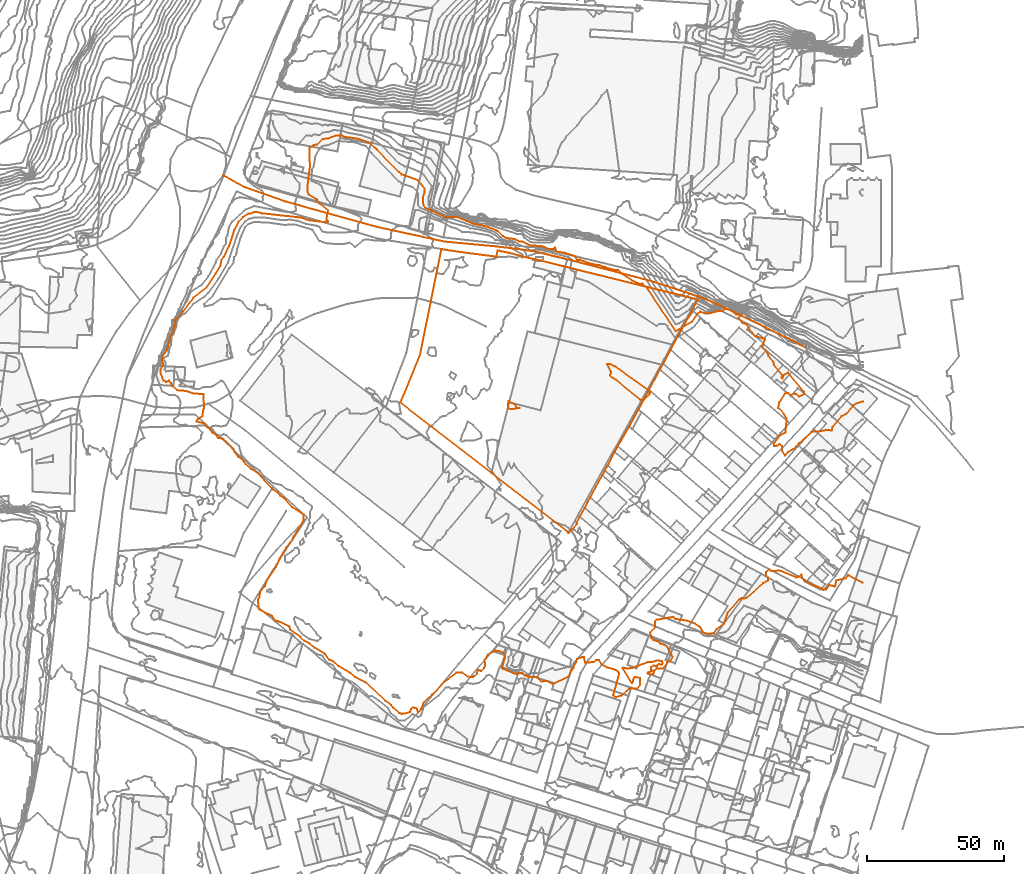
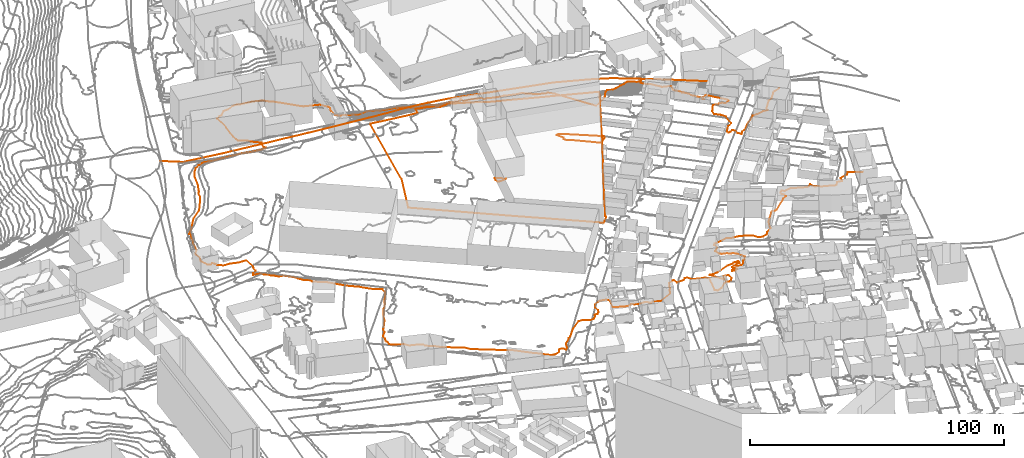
# Not in any storey, part 261 of 419: 5 proxies.
"""IFC2X3 model written with IfcOpenShell, lengths in metres."""

from ifc_helpers import new_model, entity, si_unit, frame, origin_with_axes, place, context, subcontext, project, element, save


model = new_model("IFC2X3")

# Units and contexts
model_context = context("Model", 3, precision=1e-05, world=origin_with_axes())
body_context = subcontext(model_context, "Body", "Model", "MODEL_VIEW")
ifc_project = project(units=[si_unit("AREAUNIT", "SQUARE_METRE"), si_unit("LENGTHUNIT", "METRE")], contexts=[model_context])

# Proxies
proxy_1_placement = place(None, frame((742.7920204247, 381.7976909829, 75.8), z_axis=(0.0, 0.0, 1.0), x_axis=(1.0, 0.0, 0.0)))
element("IfcBuildingElementProxy", 1, at=proxy_1_placement, Name="Route 217", ObjectType="NOTDEFINED", context=body_context, shape_type="GeometricCurveSet", body=[
    entity("IfcGeometricCurveSet", [entity("IfcPolyline", [entity("IfcCartesianPoint", [212.8, -62.9000000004, 2.1]), entity("IfcCartesianPoint", [211.0, -62.0, 2.2]), entity("IfcCartesianPoint", [194.8, -54.0, 3.9]), entity("IfcCartesianPoint", [178.5, -46.1000000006, 5.3]), entity("IfcCartesianPoint", [170.2000000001, -43.1000000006, 5.8]), entity("IfcCartesianPoint", [156.4, -38.6000000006, 6.4]), entity("IfcCartesianPoint", [126.2000000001, -30.8000000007, 6.6]), entity("IfcCartesianPoint", [114.0, -27.8000000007, 6.8]), entity("IfcCartesianPoint", [106.3, -26.7000000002, 7.0]), entity("IfcCartesianPoint", [99.1000000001, -25.9000000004, 7.2]), entity("IfcCartesianPoint", [80.9, -24.2000000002, 7.2]), entity("IfcCartesianPoint", [56.5, -18.9000000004, 5.3]), entity("IfcCartesianPoint", [22.6000000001, -9.5, 1.5]), entity("IfcCartesianPoint", [7.9, -4.3000000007, -0.6]), entity("IfcCartesianPoint", [0.0, 0.0, 0.0])])]),
])
proxy_2_placement = place(None, frame((807.5720204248, 298.7676909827, 81.0561277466), z_axis=(0.0, 0.0, 1.0), x_axis=(1.0, 0.0, 0.0)))
element("IfcBuildingElementProxy", 2, at=proxy_2_placement, Name="Cadastre 126", ObjectType="NOTDEFINED", context=body_context, shape_type="GeometricCurveSet", body=[
    entity("IfcGeometricCurveSet", [entity("IfcPolyline", [entity("IfcCartesianPoint", [62.36, -46.7400000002, 0.0134738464]), entity("IfcCartesianPoint", [61.49, -47.4900000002, 0.0741104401]), entity("IfcCartesianPoint", [61.3300000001, -47.3700000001, 0.063875]), entity("IfcCartesianPoint", [33.2200000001, -25.6600000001, -0.1066295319]), entity("IfcCartesianPoint", [0.0, 0.0, 0.0]), entity("IfcCartesianPoint", [7.1900000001, 17.6200000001, 0.423541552]), entity("IfcCartesianPoint", [14.9700000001, 56.0999999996, 1.1154054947]), entity("IfcCartesianPoint", [19.2000000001, 55.4000000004, 1.0564140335]), entity("IfcCartesianPoint", [35.0900000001, 53.3099999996, 0.878473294]), entity("IfcCartesianPoint", [35.4600000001, 55.6600000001, 1.2882338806]), entity("IfcCartesianPoint", [36.99, 55.2999999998, 1.2410689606]), entity("IfcCartesianPoint", [39.8200000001, 54.7000000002, 1.1999342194]), entity("IfcCartesianPoint", [45.29, 53.2199999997, 0.3375131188]), entity("IfcCartesianPoint", [48.14, 52.5800000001, 0.9619943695]), entity("IfcCartesianPoint", [49.3500000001, 52.3399999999, 0.9716436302]), entity("IfcCartesianPoint", [60.26, 49.6500000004, -0.4708803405]), entity("IfcCartesianPoint", [64.38, 48.6100000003, -1.2294933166]), entity("IfcCartesianPoint", [108.26, 37.7599999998, -5.1297275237]), entity("IfcCartesianPoint", [108.49, 37.6699999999, -5.1839281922]), entity("IfcCartesianPoint", [106.4700000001, 33.7199999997, -3.056732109]), entity("IfcCartesianPoint", [102.51, 26.46, -1.4481596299]), entity("IfcCartesianPoint", [101.41, 24.4500000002, -0.9247949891]), entity("IfcCartesianPoint", [98.6000000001, 19.2800000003, -0.6140472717]), entity("IfcCartesianPoint", [95.9400000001, 14.1900000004, -0.6990717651]), entity("IfcCartesianPoint", [94.7200000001, 12.1299999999, -0.609127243]), entity("IfcCartesianPoint", [90.76, 4.6299999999, -0.0583302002]), entity("IfcCartesianPoint", [86.88, -2.5499999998, -0.3194335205]), entity("IfcCartesianPoint", [83.51, -8.7400000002, -0.275772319]), entity("IfcCartesianPoint", [79.36, -15.8700000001, -0.2960259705]), entity("IfcCartesianPoint", [78.2200000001, -18.0499999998, -0.6456488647]), entity("IfcCartesianPoint", [75.66, -22.9100000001, -0.6443513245]), entity("IfcCartesianPoint", [74.6000000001, -24.7599999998, -0.6626278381]), entity("IfcCartesianPoint", [73.7100000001, -26.5, -0.6781189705]), entity("IfcCartesianPoint", [69.25, -34.5499999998, -0.6599944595]), entity("IfcCartesianPoint", [67.28, -38.3899999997, -0.4901965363]), entity("IfcCartesianPoint", [65.4700000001, -41.5800000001, -0.3348971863]), entity("IfcCartesianPoint", [64.42, -43.54, -0.2276295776]), entity("IfcCartesianPoint", [64.55, -44.1500000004, -0.2036297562]), entity("IfcCartesianPoint", [64.38, -44.2999999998, -0.1876294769]), entity("IfcCartesianPoint", [62.36, -46.7400000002, 0.0134738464])])]),
])
proxy_3_placement = place(None, frame((883.0920204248, 312.8977909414, 81.0), z_axis=(0.0, 0.0, 1.0), x_axis=(1.0, 0.0, 0.0)))
element("IfcBuildingElementProxy", 3, at=proxy_3_placement, Name="Contour 81.0 m", ObjectType="NOTDEFINED", context=body_context, shape_type="GeometricCurveSet", body=[
    entity("IfcGeometricCurveSet", [entity("IfcPolyline", [entity("IfcCartesianPoint", [13.2857220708, -13.0000999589, 0.0]), entity("IfcCartesianPoint", [13.0, -13.2858220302, 0.0]), entity("IfcCartesianPoint", [12.0, -13.0001199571, 0.0]), entity("IfcCartesianPoint", [3.0, -5.6666818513, 0.0]), entity("IfcCartesianPoint", [1.7999694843, -5.0000999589, 0.0]), entity("IfcCartesianPoint", [0.9999499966, -4.0000999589, 0.0]), entity("IfcCartesianPoint", [1.4999500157, -3.0000999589, 0.0]), entity("IfcCartesianPoint", [0.0, 0.0, 0.0]), entity("IfcCartesianPoint", [1.0, -6.66268e-05, 0.0]), entity("IfcCartesianPoint", [3.0, -1.0000799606, 0.0]), entity("IfcCartesianPoint", [15.6665818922, -10.0000999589, 0.0]), entity("IfcCartesianPoint", [15.5384705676, -11.0000999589, 0.0]), entity("IfcCartesianPoint", [13.2857220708, -13.0000999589, 0.0])])]),
])
proxy_4_placement = place(None, frame((846.8420108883, 297.8976909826, 81.0), z_axis=(0.0, 0.0, 1.0), x_axis=(1.0, 0.0, 0.0)))
element("IfcBuildingElementProxy", 4, at=proxy_4_placement, Name="Contour 81.0 m", ObjectType="NOTDEFINED", context=body_context, shape_type="GeometricCurveSet", body=[
    entity("IfcGeometricCurveSet", [entity("IfcPolyline", [entity("IfcCartesianPoint", [4.2500220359, -1.0, 0.0]), entity("IfcCartesianPoint", [1.2500095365, -1.5000499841, 0.0]), entity("IfcCartesianPoint", [0.2500095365, -1.2500476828, 0.0]), entity("IfcCartesianPoint", [0.0, 0.0, 0.0]), entity("IfcCartesianPoint", [0.2500095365, 1.4375089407, 0.0]), entity("IfcCartesianPoint", [2.7500220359, 0.0, 0.0]), entity("IfcCartesianPoint", [3.2500095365, -0.9999750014, 0.0]), entity("IfcCartesianPoint", [4.2500220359, -1.0, 0.0])])]),
])
proxy_5_placement = place(None, frame((719.9470940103, 309.8976909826, 79.0), z_axis=(0.0, 0.0, 1.0), x_axis=(1.0, 0.0, 0.0)))
element("IfcBuildingElementProxy", 5, at=proxy_5_placement, Name="Contour 79.0 m", ObjectType="NOTDEFINED", context=body_context, shape_type="GeometricCurveSet", body=[
    entity("IfcGeometricCurveSet", [entity("IfcPolyline", [entity("IfcCartesianPoint", [256.6449264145, -76.7778060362, 0.0]), entity("IfcCartesianPoint", [256.1449264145, -76.7778060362, 0.0]), entity("IfcCartesianPoint", [251.1449264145, -74.1000228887, 0.0]), entity("IfcCartesianPoint", [250.1449264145, -75.2307647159, 0.0]), entity("IfcCartesianPoint", [246.7812837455, -76.0, 0.0]), entity("IfcCartesianPoint", [246.4176410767, -78.0, 0.0]), entity("IfcCartesianPoint", [246.1449264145, -78.1764653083, 0.0]), entity("IfcCartesianPoint", [244.1449264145, -77.7142960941, 0.0]), entity("IfcCartesianPoint", [243.1449264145, -79.25, 0.0]), entity("IfcCartesianPoint", [242.1449264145, -79.2500095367, 0.0]), entity("IfcCartesianPoint", [237.1449264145, -77.2666700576, 0.0]), entity("IfcCartesianPoint", [236.1449264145, -76.4138012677, 0.0]), entity("IfcCartesianPoint", [235.1449264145, -76.2105284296, 0.0]), entity("IfcCartesianPoint", [234.3324234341, -75.0, 0.0]), entity("IfcCartesianPoint", [234.1449264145, -73.8260855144, 0.0]), entity("IfcCartesianPoint", [233.1449264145, -74.6470693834, 0.0]), entity("IfcCartesianPoint", [232.1449264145, -74.8750178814, 0.0]), entity("IfcCartesianPoint", [226.1449264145, -72.3636426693, 0.0]), entity("IfcCartesianPoint", [223.1449264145, -72.6665818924, 0.0]), entity("IfcCartesianPoint", [222.1449264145, -72.0000500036, 0.0]), entity("IfcCartesianPoint", [221.1449764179, -73.0, 0.0]), entity("IfcCartesianPoint", [221.144959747, -74.0, 0.0]), entity("IfcCartesianPoint", [221.9782385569, -75.0, 0.0]), entity("IfcCartesianPoint", [221.8948787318, -76.0, 0.0]), entity("IfcCartesianPoint", [220.1449264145, -77.0000090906, 0.0]), entity("IfcCartesianPoint", [214.1449264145, -82.25, 0.0]), entity("IfcCartesianPoint", [213.1449264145, -82.6666807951, 0.0]), entity("IfcCartesianPoint", [212.1449264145, -82.439021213, 0.0]), entity("IfcCartesianPoint", [211.2249129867, -83.0, 0.0]), entity("IfcCartesianPoint", [207.1449264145, -87.7646979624, 0.0]), entity("IfcCartesianPoint", [205.6287942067, -92.0, 0.0]), entity("IfcCartesianPoint", [203.1449264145, -93.7346983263, 0.0]), entity("IfcCartesianPoint", [202.1449264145, -95.2136755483, 0.0]), entity("IfcCartesianPoint", [200.1449264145, -95.5327101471, 0.0]), entity("IfcCartesianPoint", [199.1449264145, -95.4137946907, 0.0]), entity("IfcCartesianPoint", [198.2037473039, -95.0, 0.0]), entity("IfcCartesianPoint", [197.1449264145, -93.0487727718, 0.0]), entity("IfcCartesianPoint", [195.1449264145, -91.7999961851, 0.0]), entity("IfcCartesianPoint", [192.1449264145, -90.676472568, 0.0]), entity("IfcCartesianPoint", [188.1449264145, -90.0645058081, 0.0]), entity("IfcCartesianPoint", [187.1449264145, -89.3200073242, 0.0]), entity("IfcCartesianPoint", [181.1449264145, -90.3749761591, 0.0]), entity("IfcCartesianPoint", [180.6449364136, -91.0, 0.0]), entity("IfcCartesianPoint", [180.7004913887, -93.0, 0.0]), entity("IfcCartesianPoint", [178.8115930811, -95.0, 0.0]), entity("IfcCartesianPoint", [179.4390519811, -97.0, 0.0]), entity("IfcCartesianPoint", [180.1449264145, -97.857166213, 0.0]), entity("IfcCartesianPoint", [182.1449264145, -98.3749761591, 0.0]), entity("IfcCartesianPoint", [182.502092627, -99.0, 0.0]), entity("IfcCartesianPoint", [184.1449264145, -99.5789431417, 0.0]), entity("IfcCartesianPoint", [185.1449264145, -100.3333502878, 0.0]), entity("IfcCartesianPoint", [187.0759708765, -104.0, 0.0]), entity("IfcCartesianPoint", [186.1449264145, -105.3599853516, 0.0]), entity("IfcCartesianPoint", [185.0615771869, -106.0, 0.0]), entity("IfcCartesianPoint", [184.1449264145, -107.5999847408, 0.0]), entity("IfcCartesianPoint", [183.1449264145, -108.2307647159, 0.0]), entity("IfcCartesianPoint", [181.1449264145, -108.1666878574, 0.0]), entity("IfcCartesianPoint", [180.3116142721, -109.0, 0.0]), entity("IfcCartesianPoint", [180.1449355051, -110.0, 0.0]), entity("IfcCartesianPoint", [179.1449264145, -110.357166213, 0.0]), entity("IfcCartesianPoint", [177.8592588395, -110.0, 0.0]), entity("IfcCartesianPoint", [178.1449264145, -109.60003052, 0.0]), entity("IfcCartesianPoint", [179.6448764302, -109.0, 0.0]), entity("IfcCartesianPoint", [179.1449264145, -108.5000499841, 0.0]), entity("IfcCartesianPoint", [179.1449264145, -107.6665818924, 0.0]), entity("IfcCartesianPoint", [180.1449264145, -106.999966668, 0.0]), entity("IfcCartesianPoint", [181.1449264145, -107.4999500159, 0.0]), entity("IfcCartesianPoint", [181.3949740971, -107.0, 0.0]), entity("IfcCartesianPoint", [182.1449264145, -106.5714441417, 0.0]), entity("IfcCartesianPoint", [183.1449264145, -106.7999694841, 0.0]), entity("IfcCartesianPoint", [183.4115964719, -106.0, 0.0]), entity("IfcCartesianPoint", [183.1449264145, -105.4285558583, 0.0]), entity("IfcCartesianPoint", [181.1449264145, -105.2500476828, 0.0]), entity("IfcCartesianPoint", [180.1449264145, -105.7000076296, 0.0]), entity("IfcCartesianPoint", [178.1449264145, -105.80768215, 0.0]), entity("IfcCartesianPoint", [172.1449264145, -108.0000041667, 0.0]), entity("IfcCartesianPoint", [170.1449264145, -108.1999898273, 0.0]), entity("IfcCartesianPoint", [169.1449264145, -107.8571480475, 0.0]), entity("IfcCartesianPoint", [168.8115930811, -108.0, 0.0]), entity("IfcCartesianPoint", [172.1449264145, -113.4444350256, 0.0]), entity("IfcCartesianPoint", [172.6449139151, -113.0, 0.0]), entity("IfcCartesianPoint", [172.6949378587, -112.0, 0.0]), entity("IfcCartesianPoint", [173.1449264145, -111.25, 0.0]), entity("IfcCartesianPoint", [175.1449264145, -111.6667090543, 0.0]), entity("IfcCartesianPoint", [175.2087534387, -114.0, 0.0]), entity("IfcCartesianPoint", [174.1449264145, -115.4444350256, 0.0]), entity("IfcCartesianPoint", [173.1449264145, -115.5555649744, 0.0]), entity("IfcCartesianPoint", [172.1449264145, -115.2500476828, 0.0]), entity("IfcCartesianPoint", [171.1449264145, -115.5833174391, 0.0]), entity("IfcCartesianPoint", [168.3830285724, -118.0, 0.0]), entity("IfcCartesianPoint", [167.1449264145, -118.434784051, 0.0]), entity("IfcCartesianPoint", [166.1449264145, -118.6250238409, 0.0]), entity("IfcCartesianPoint", [165.3116142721, -118.0, 0.0]), entity("IfcCartesianPoint", [167.5448958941, -110.0, 0.0]), entity("IfcCartesianPoint", [167.1449264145, -109.3334181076, 0.0]), entity("IfcCartesianPoint", [166.1449264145, -108.6665818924, 0.0]), entity("IfcCartesianPoint", [163.1449264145, -107.7499523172, 0.0]), entity("IfcCartesianPoint", [161.1449264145, -106.7499523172, 0.0]), entity("IfcCartesianPoint", [160.1449264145, -105.0000166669, 0.0]), entity("IfcCartesianPoint", [159.1449264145, -105.0000199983, 0.0]), entity("IfcCartesianPoint", [158.1449264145, -105.8333121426, 0.0]), entity("IfcCartesianPoint", [155.1449264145, -106.000033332, 0.0]), entity("IfcCartesianPoint", [154.6448764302, -104.0, 0.0]), entity("IfcCartesianPoint", [153.8948787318, -104.0, 0.0]), entity("IfcCartesianPoint", [152.1449264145, -104.7272853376, 0.0]), entity("IfcCartesianPoint", [151.716354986, -106.0, 0.0]), entity("IfcCartesianPoint", [150.9853507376, -107.0, 0.0]), entity("IfcCartesianPoint", [150.8486238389, -108.0, 0.0]), entity("IfcCartesianPoint", [149.9526085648, -109.0, 0.0]), entity("IfcCartesianPoint", [149.1449264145, -111.0000047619, 0.0]), entity("IfcCartesianPoint", [143.1449264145, -113.8636426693, 0.0]), entity("IfcCartesianPoint", [141.1449264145, -112.75, 0.0]), entity("IfcCartesianPoint", [140.1449264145, -112.6896606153, 0.0]), entity("IfcCartesianPoint", [139.1449264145, -113.0000020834, 0.0]), entity("IfcCartesianPoint", [138.319924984, -112.0, 0.0]), entity("IfcCartesianPoint", [137.1449264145, -111.3428555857, 0.0]), entity("IfcCartesianPoint", [134.1449264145, -111.1290351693, 0.0]), entity("IfcCartesianPoint", [133.1449264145, -110.6736857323, 0.0]), entity("IfcCartesianPoint", [132.1449264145, -109.7200012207, 0.0]), entity("IfcCartesianPoint", [130.1449264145, -110.1538434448, 0.0]), entity("IfcCartesianPoint", [129.1449264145, -109.9647072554, 0.0]), entity("IfcCartesianPoint", [125.1449264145, -108.3058854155, 0.0]), entity("IfcCartesianPoint", [124.6721978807, -108.0, 0.0]), entity("IfcCartesianPoint", [125.8949224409, -104.0, 0.0]), entity("IfcCartesianPoint", [125.6782665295, -103.0, 0.0]), entity("IfcCartesianPoint", [125.1449264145, -102.4074032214, 0.0]), entity("IfcCartesianPoint", [124.1449264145, -101.9629556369, 0.0]), entity("IfcCartesianPoint", [122.1449264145, -101.6250119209, 0.0]), entity("IfcCartesianPoint", [119.5734822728, -103.0, 0.0]), entity("IfcCartesianPoint", [118.3830285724, -105.0, 0.0]), entity("IfcCartesianPoint", [118.6264037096, -107.0, 0.0]), entity("IfcCartesianPoint", [118.2189889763, -108.0, 0.0]), entity("IfcCartesianPoint", [117.1449264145, -109.0312567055, 0.0]), entity("IfcCartesianPoint", [116.1449264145, -108.8000305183, 0.0]), entity("IfcCartesianPoint", [115.8116354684, -109.0, 0.0]), entity("IfcCartesianPoint", [115.5600240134, -110.0, 0.0]), entity("IfcCartesianPoint", [114.5735040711, -111.0, 0.0]), entity("IfcCartesianPoint", [114.1449264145, -111.263160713, 0.0]), entity("IfcCartesianPoint", [112.1449264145, -111.1739164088, 0.0]), entity("IfcCartesianPoint", [110.1449264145, -109.6923031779, 0.0]), entity("IfcCartesianPoint", [108.1449264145, -109.6857111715, 0.0]), entity("IfcCartesianPoint", [103.7318768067, -113.0, 0.0]), entity("IfcCartesianPoint", [100.1449285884, -117.0, 0.0]), entity("IfcCartesianPoint", [99.1449264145, -117.6444399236, 0.0]), entity("IfcCartesianPoint", [96.1449264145, -120.5873013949, 0.0]), entity("IfcCartesianPoint", [95.1449264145, -123.032252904, 0.0]), entity("IfcCartesianPoint", [94.1449264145, -124.1764653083, 0.0]), entity("IfcCartesianPoint", [93.644921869, -123.0, 0.0]), entity("IfcCartesianPoint", [93.1449264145, -122.5769242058, 0.0]), entity("IfcCartesianPoint", [92.1449264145, -122.3809558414, 0.0]), entity("IfcCartesianPoint", [91.5402707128, -123.0, 0.0]), entity("IfcCartesianPoint", [91.1449264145, -124.0246872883, 0.0]), entity("IfcCartesianPoint", [89.1449264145, -124.6829304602, 0.0]), entity("IfcCartesianPoint", [88.1449264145, -124.714288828, 0.0]), entity("IfcCartesianPoint", [87.1449264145, -124.3499971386, 0.0]), entity("IfcCartesianPoint", [85.1449264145, -122.6249910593, 0.0]), entity("IfcCartesianPoint", [84.1449264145, -121.4230757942, 0.0]), entity("IfcCartesianPoint", [82.2318850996, -120.0, 0.0]), entity("IfcCartesianPoint", [75.1449264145, -113.3611028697, 0.0]), entity("IfcCartesianPoint", [71.1449264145, -111.2571335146, 0.0]), entity("IfcCartesianPoint", [69.1449264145, -109.6052642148, 0.0]), entity("IfcCartesianPoint", [65.1449264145, -107.3095186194, 0.0]), entity("IfcCartesianPoint", [63.1449264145, -105.6274477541, 0.0]), entity("IfcCartesianPoint", [61.7375231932, -105.0, 0.0]), entity("IfcCartesianPoint", [60.1449264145, -102.8163332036, 0.0]), entity("IfcCartesianPoint", [56.1449264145, -100.4642779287, 0.0]), entity("IfcCartesianPoint", [54.3949216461, -99.0, 0.0]), entity("IfcCartesianPoint", [52.4115964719, -98.0, 0.0]), entity("IfcCartesianPoint", [51.1449264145, -96.6610200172, 0.0]), entity("IfcCartesianPoint", [47.4306484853, -94.0, 0.0]), entity("IfcCartesianPoint", [47.1449264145, -92.8571389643, 0.0]), entity("IfcCartesianPoint", [43.1449264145, -90.9394030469, 0.0]), entity("IfcCartesianPoint", [42.1449264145, -90.857166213, 0.0]), entity("IfcCartesianPoint", [40.8116354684, -89.0, 0.0]), entity("IfcCartesianPoint", [36.1449264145, -86.666666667, 0.0]), entity("IfcCartesianPoint", [35.7812837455, -86.0, 0.0]), entity("IfcCartesianPoint", [35.9096296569, -85.0, 0.0]), entity("IfcCartesianPoint", [35.6136816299, -84.0, 0.0]), entity("IfcCartesianPoint", [35.7311251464, -83.0, 0.0]), entity("IfcCartesianPoint", [36.2260052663, -82.0, 0.0]), entity("IfcCartesianPoint", [36.4002507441, -80.0, 0.0]), entity("IfcCartesianPoint", [38.1449245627, -78.0, 0.0]), entity("IfcCartesianPoint", [38.8267477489, -76.0, 0.0]), entity("IfcCartesianPoint", [42.2490987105, -71.0, 0.0]), entity("IfcCartesianPoint", [43.5152957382, -68.0, 0.0]), entity("IfcCartesianPoint", [45.9513843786, -64.0, 0.0]), entity("IfcCartesianPoint", [48.2844555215, -61.0, 0.0]), entity("IfcCartesianPoint", [48.5388644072, -60.0, 0.0]), entity("IfcCartesianPoint", [51.2782631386, -56.0, 0.0]), entity("IfcCartesianPoint", [52.2311383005, -54.0, 0.0]), entity("IfcCartesianPoint", [52.2429712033, -52.0, 0.0]), entity("IfcCartesianPoint", [48.1449264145, -49.2500059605, 0.0]), entity("IfcCartesianPoint", [45.2138819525, -46.0, 0.0]), entity("IfcCartesianPoint", [43.7639636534, -45.0, 0.0]), entity("IfcCartesianPoint", [42.9321642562, -44.0, 0.0]), entity("IfcCartesianPoint", [41.1449264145, -42.8448323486, 0.0]), entity("IfcCartesianPoint", [35.8480473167, -37.0, 0.0]), entity("IfcCartesianPoint", [33.1449264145, -35.2555588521, 0.0]), entity("IfcCartesianPoint", [31.1449264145, -33.5774644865, 0.0]), entity("IfcCartesianPoint", [30.1884057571, -32.0, 0.0]), entity("IfcCartesianPoint", [28.5556428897, -31.0, 0.0]), entity("IfcCartesianPoint", [27.0913569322, -29.0, 0.0]), entity("IfcCartesianPoint", [26.7401671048, -28.0, 0.0]), entity("IfcCartesianPoint", [23.1449264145, -24.5000026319, 0.0]), entity("IfcCartesianPoint", [22.1449264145, -24.0781298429, 0.0]), entity("IfcCartesianPoint", [21.1449264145, -24.0533345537, 0.0]), entity("IfcCartesianPoint", [20.4234971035, -23.0, 0.0]), entity("IfcCartesianPoint", [18.9427966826, -22.0, 0.0]), entity("IfcCartesianPoint", [18.1449264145, -20.6911779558, 0.0]), entity("IfcCartesianPoint", [16.959359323, -20.0, 0.0]), entity("IfcCartesianPoint", [16.1449264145, -18.6607130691, 0.0]), entity("IfcCartesianPoint", [13.1449187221, -18.0, 0.0]), entity("IfcCartesianPoint", [13.7163705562, -17.0, 0.0]), entity("IfcCartesianPoint", [15.4176410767, -16.0, 0.0]), entity("IfcCartesianPoint", [15.5449416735, -14.0, 0.0]), entity("IfcCartesianPoint", [15.9631271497, -13.0, 0.0]), entity("IfcCartesianPoint", [15.7282438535, -8.0, 0.0]), entity("IfcCartesianPoint", [12.1449264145, -7.7543869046, 0.0]), entity("IfcCartesianPoint", [9.1449264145, -6.8070163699, 0.0]), entity("IfcCartesianPoint", [6.1449264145, -6.566036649, 0.0]), entity("IfcCartesianPoint", [4.276511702, -5.0, 0.0]), entity("IfcCartesianPoint", [3.9176410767, -4.0, 0.0]), entity("IfcCartesianPoint", [3.1449264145, -3.0000058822, 0.0]), entity("IfcCartesianPoint", [2.1449264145, -3.518522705, 0.0]), entity("IfcCartesianPoint", [1.1449264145, -3.0000047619, 0.0]), entity("IfcCartesianPoint", [0.0, 0.0, 0.0]), entity("IfcCartesianPoint", [0.1219416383, 1.0, 0.0]), entity("IfcCartesianPoint", [0.9330620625, 3.0, 0.0]), entity("IfcCartesianPoint", [0.5837024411, 5.0, 0.0]), entity("IfcCartesianPoint", [0.756627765, 6.0, 0.0]), entity("IfcCartesianPoint", [2.3697331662, 8.0, 0.0]), entity("IfcCartesianPoint", [3.6940337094, 13.0, 0.0]), entity("IfcCartesianPoint", [4.6873792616, 15.0, 0.0]), entity("IfcCartesianPoint", [4.7565332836, 16.0, 0.0]), entity("IfcCartesianPoint", [5.5795061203, 18.0, 0.0]), entity("IfcCartesianPoint", [5.3548013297, 19.0, 0.0]), entity("IfcCartesianPoint", [8.1449264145, 22.0000015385, 0.0]), entity("IfcCartesianPoint", [12.1449264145, 27.3409106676, 0.0]), entity("IfcCartesianPoint", [16.8205970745, 31.0, 0.0]), entity("IfcCartesianPoint", [20.1449233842, 36.0, 0.0]), entity("IfcCartesianPoint", [21.9292398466, 39.0, 0.0]), entity("IfcCartesianPoint", [22.2949225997, 41.0, 0.0]), entity("IfcCartesianPoint", [23.1449264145, 42.1388971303, 0.0]), entity("IfcCartesianPoint", [25.0128512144, 46.0, 0.0]), entity("IfcCartesianPoint", [26.9893704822, 52.0, 0.0]), entity("IfcCartesianPoint", [28.634293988, 55.0, 0.0]), entity("IfcCartesianPoint", [30.1449264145, 56.7333299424, 0.0]), entity("IfcCartesianPoint", [32.1449264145, 57.9795877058, 0.0]), entity("IfcCartesianPoint", [33.1449264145, 58.0476112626, 0.0]), entity("IfcCartesianPoint", [34.1449264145, 58.5744687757, 0.0]), entity("IfcCartesianPoint", [35.1449264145, 58.5531945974, 0.0]), entity("IfcCartesianPoint", [37.1449264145, 58.035708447, 0.0]), entity("IfcCartesianPoint", [51.1449264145, 56.4933369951, 0.0]), entity("IfcCartesianPoint", [54.1449264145, 55.5079382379, 0.0]), entity("IfcCartesianPoint", [59.1449264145, 54.8912992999, 0.0]), entity("IfcCartesianPoint", [61.228275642, 55.0, 0.0]), entity("IfcCartesianPoint", [60.7004913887, 56.0, 0.0]), entity("IfcCartesianPoint", [60.8592588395, 58.0, 0.0]), entity("IfcCartesianPoint", [61.2987499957, 59.0, 0.0]), entity("IfcCartesianPoint", [58.1449264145, 61.6000061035, 0.0]), entity("IfcCartesianPoint", [57.1449264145, 63.0625119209, 0.0]), entity("IfcCartesianPoint", [54.1449264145, 64.8889077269, 0.0]), entity("IfcCartesianPoint", [53.744932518, 66.0, 0.0]), entity("IfcCartesianPoint", [53.7193939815, 68.0, 0.0]), entity("IfcCartesianPoint", [54.6032615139, 75.0, 0.0]), entity("IfcCartesianPoint", [54.444918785, 82.0, 0.0]), entity("IfcCartesianPoint", [56.1449264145, 83.0000038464, 0.0]), entity("IfcCartesianPoint", [57.1449264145, 83.1944432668, 0.0]), entity("IfcCartesianPoint", [59.1449264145, 85.1891869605, 0.0]), entity("IfcCartesianPoint", [61.1449264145, 85.3488405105, 0.0]), entity("IfcCartesianPoint", [64.1449264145, 86.4680864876, 0.0]), entity("IfcCartesianPoint", [66.1449264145, 86.4230757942, 0.0]), entity("IfcCartesianPoint", [67.1449264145, 85.9818143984, 0.0]), entity("IfcCartesianPoint", [72.1449264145, 85.2380958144, 0.0]), entity("IfcCartesianPoint", [76.1449264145, 83.9107096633, 0.0]), entity("IfcCartesianPoint", [78.1449264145, 81.9772679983, 0.0]), entity("IfcCartesianPoint", [79.1449264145, 81.3870991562, 0.0]), entity("IfcCartesianPoint", [87.1449264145, 73.0322644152, 0.0]), entity("IfcCartesianPoint", [88.1449264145, 72.2758675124, 0.0]), entity("IfcCartesianPoint", [94.1449264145, 70.0967710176, 0.0]), entity("IfcCartesianPoint", [96.5115913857, 67.0, 0.0]), entity("IfcCartesianPoint", [96.5362322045, 66.0, 0.0]), entity("IfcCartesianPoint", [95.8470561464, 64.0, 0.0]), entity("IfcCartesianPoint", [96.031723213, 61.0, 0.0]), entity("IfcCartesianPoint", [96.8301155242, 60.0, 0.0]), entity("IfcCartesianPoint", [104.1449264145, 56.670995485, 0.0]), entity("IfcCartesianPoint", [108.1449264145, 56.7580631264, 0.0]), entity("IfcCartesianPoint", [114.1449264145, 54.2333323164, 0.0]), entity("IfcCartesianPoint", [119.1449264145, 53.2327565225, 0.0]), entity("IfcCartesianPoint", [123.1449264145, 51.6588218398, 0.0]), entity("IfcCartesianPoint", [125.1449264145, 49.6538433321, 0.0]), entity("IfcCartesianPoint", [126.4207939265, 49.0, 0.0]), entity("IfcCartesianPoint", [129.1449264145, 48.6481488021, 0.0]), entity("IfcCartesianPoint", [131.1449264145, 47.7200012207, 0.0]), entity("IfcCartesianPoint", [132.1449264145, 47.7083320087, 0.0]), entity("IfcCartesianPoint", [135.1449264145, 46.3132548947, 0.0]), entity("IfcCartesianPoint", [139.1449264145, 46.0302981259, 0.0]), entity("IfcCartesianPoint", [142.1449264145, 44.932586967, 0.0]), entity("IfcCartesianPoint", [143.6449164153, 45.0, 0.0]), entity("IfcCartesianPoint", [144.1449264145, 45.6250238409, 0.0]), entity("IfcCartesianPoint", [144.6865864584, 44.0, 0.0]), entity("IfcCartesianPoint", [147.1449264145, 43.6949167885, 0.0]), entity("IfcCartesianPoint", [151.1449264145, 42.4347768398, 0.0]), entity("IfcCartesianPoint", [151.6854658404, 42.0, 0.0]), entity("IfcCartesianPoint", [152.1449264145, 41.0000058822, 0.0]), entity("IfcCartesianPoint", [153.1449264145, 41.0769117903, 0.0]), entity("IfcCartesianPoint", [157.1449264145, 39.6250059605, 0.0]), entity("IfcCartesianPoint", [160.1449264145, 39.0666802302, 0.0]), entity("IfcCartesianPoint", [165.1449264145, 37.5000055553, 0.0]), entity("IfcCartesianPoint", [167.1449264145, 37.2727146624, 0.0]), entity("IfcCartesianPoint", [168.4782173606, 36.0, 0.0]), entity("IfcCartesianPoint", [172.1449264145, 33.5555649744, 0.0]), entity("IfcCartesianPoint", [175.1449264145, 32.1666878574, 0.0]), entity("IfcCartesianPoint", [176.1449264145, 32.3332909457, 0.0]), entity("IfcCartesianPoint", [178.1449264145, 30.2820532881, 0.0]), entity("IfcCartesianPoint", [188.1449264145, 14.9736789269, 0.0]), entity("IfcCartesianPoint", [194.1449264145, 18.5365835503, 0.0]), entity("IfcCartesianPoint", [196.1449264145, 21.4687552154, 0.0]), entity("IfcCartesianPoint", [197.1449264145, 22.1460644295, 0.0]), entity("IfcCartesianPoint", [199.1449264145, 21.3684210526, 0.0]), entity("IfcCartesianPoint", [201.1449264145, 21.6216234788, 0.0]), entity("IfcCartesianPoint", [203.1449264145, 22.2485883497, 0.0]), entity("IfcCartesianPoint", [205.1449264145, 22.3802774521, 0.0]), entity("IfcCartesianPoint", [206.1449264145, 23.11494142, 0.0]), entity("IfcCartesianPoint", [207.1449264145, 23.0833353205, 0.0]), entity("IfcCartesianPoint", [209.3379100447, 22.0, 0.0]), entity("IfcCartesianPoint", [210.1449264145, 21.1320751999, 0.0]), entity("IfcCartesianPoint", [212.1449264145, 21.0000009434, 0.0]), entity("IfcCartesianPoint", [211.144959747, 20.0, 0.0]), entity("IfcCartesianPoint", [212.5893614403, 18.0, 0.0]), entity("IfcCartesianPoint", [214.1449264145, 17.3636426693, 0.0]), entity("IfcCartesianPoint", [215.1449264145, 15.666666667, 0.0]), entity("IfcCartesianPoint", [217.1449264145, 13.2221939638, 0.0]), entity("IfcCartesianPoint", [220.7163705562, 12.0, 0.0]), entity("IfcCartesianPoint", [219.9227324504, 10.0, 0.0]), entity("IfcCartesianPoint", [219.9631271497, 9.0, 0.0]), entity("IfcCartesianPoint", [221.7639636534, 7.0, 0.0]), entity("IfcCartesianPoint", [222.0734822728, 6.0, 0.0]), entity("IfcCartesianPoint", [223.7812837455, 4.0, 0.0]), entity("IfcCartesianPoint", [224.1449264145, 2.666666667, 0.0]), entity("IfcCartesianPoint", [227.0020381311, -1.0, 0.0]), entity("IfcCartesianPoint", [226.7812837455, -2.0, 0.0]), entity("IfcCartesianPoint", [227.1449264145, -2.3636426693, 0.0]), entity("IfcCartesianPoint", [227.4783445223, -1.0, 0.0]), entity("IfcCartesianPoint", [229.1449264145, -0.1578894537, 0.0]), entity("IfcCartesianPoint", [234.9631050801, -7.0, 0.0]), entity("IfcCartesianPoint", [235.002092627, -8.0, 0.0]), entity("IfcCartesianPoint", [233.1449264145, -8.8999771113, 0.0]), entity("IfcCartesianPoint", [232.1449014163, -8.0, 0.0]), entity("IfcCartesianPoint", [231.1449264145, -7.7777730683, 0.0]), entity("IfcCartesianPoint", [230.1449264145, -8.4000000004, 0.0]), entity("IfcCartesianPoint", [229.1449264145, -7.6176510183, 0.0]), entity("IfcCartesianPoint", [228.1449264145, -7.6818213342, 0.0]), entity("IfcCartesianPoint", [225.9824289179, -11.0, 0.0]), entity("IfcCartesianPoint", [225.5144883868, -13.0, 0.0]), entity("IfcCartesianPoint", [227.6264037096, -15.0, 0.0]), entity("IfcCartesianPoint", [228.7037506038, -17.0, 0.0]), entity("IfcCartesianPoint", [228.2358544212, -22.0, 0.0]), entity("IfcCartesianPoint", [226.1449264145, -23.0833492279, 0.0]), entity("IfcCartesianPoint", [223.9448958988, -26.0, 0.0]), entity("IfcCartesianPoint", [224.1449264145, -26.9999000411, 0.0]), entity("IfcCartesianPoint", [225.1449264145, -26.8333121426, 0.0]), entity("IfcCartesianPoint", [226.1449264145, -26.2000305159, 0.0]), entity("IfcCartesianPoint", [226.9448958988, -27.0, 0.0]), entity("IfcCartesianPoint", [227.144959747, -29.0, 0.0]), entity("IfcCartesianPoint", [228.1449264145, -30.39996948, 0.0]), entity("IfcCartesianPoint", [229.1449264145, -29.0625119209, 0.0]), entity("IfcCartesianPoint", [231.1925558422, -28.0, 0.0]), entity("IfcCartesianPoint", [233.1449264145, -25.9047774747, 0.0]), entity("IfcCartesianPoint", [238.1449264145, -21.6363573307, 0.0]), entity("IfcCartesianPoint", [240.1449264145, -21.666666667, 0.0]), entity("IfcCartesianPoint", [243.1449264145, -21.0769366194, 0.0]), entity("IfcCartesianPoint", [245.1449264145, -21.2499761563, 0.0]), entity("IfcCartesianPoint", [245.4115964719, -20.0, 0.0]), entity("IfcCartesianPoint", [248.7282438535, -16.0, 0.0]), entity("IfcCartesianPoint", [250.6064558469, -15.0, 0.0]), entity("IfcCartesianPoint", [253.1449264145, -11.9999916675, 0.0]), entity("IfcCartesianPoint", [254.1449264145, -11.3529306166, 0.0]), entity("IfcCartesianPoint", [256.6449264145, -10.5999999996, 0.0])])]),
])

save(model, "model.ifc")
